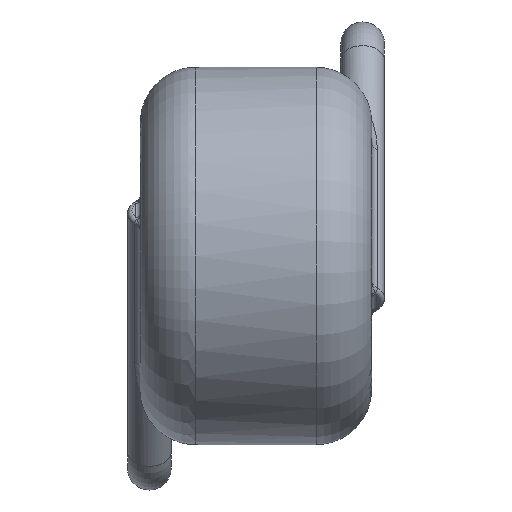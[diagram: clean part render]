
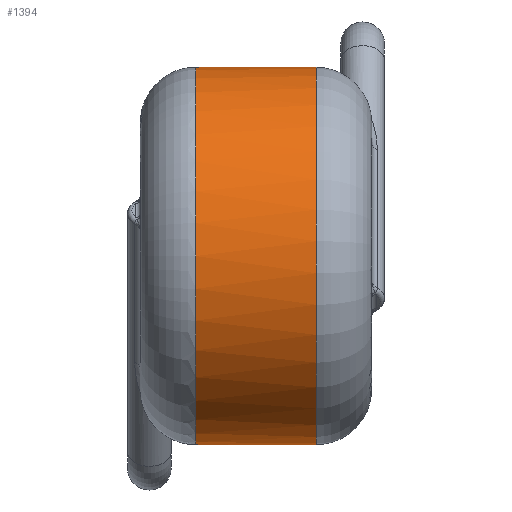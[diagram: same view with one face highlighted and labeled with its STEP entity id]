
A CAD part, left-side view. The second image highlights one B-rep face of the part: STEP entity #1394.
In plain terms, the highlighted cylindrical face has radius 8.5 mm (diameter 17 mm), a full revolution.
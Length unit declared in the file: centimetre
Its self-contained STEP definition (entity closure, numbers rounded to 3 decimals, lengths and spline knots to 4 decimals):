
#955=CARTESIAN_POINT('',(0.85,0.71,0.));
#956=VERTEX_POINT('',#955);
#957=CARTESIAN_POINT('',(0.0,0.71,0.0));
#958=DIRECTION('',(0.0,1.0,0.0));
#959=DIRECTION('',(-1.0,0.0,0.0));
#960=AXIS2_PLACEMENT_3D('',#957,#958,#959);
#961=CIRCLE('',#960,0.85);
#962=EDGE_CURVE('',#956,#956,#961,.T.);
#1285=CARTESIAN_POINT('',(0.85,0.169,0.));
#1286=VERTEX_POINT('',#1285);
#1287=CARTESIAN_POINT('',(0.0,0.169,0.0));
#1288=DIRECTION('',(0.0,-1.0,0.0));
#1289=DIRECTION('',(-1.0,0.0,0.0));
#1290=AXIS2_PLACEMENT_3D('',#1287,#1288,#1289);
#1291=CIRCLE('',#1290,0.85);
#1292=EDGE_CURVE('',#1286,#1286,#1291,.T.);
#1383=CARTESIAN_POINT('',(0.0,0.4395,0.0));
#1384=DIRECTION('',(0.0,1.0,0.0));
#1385=DIRECTION('',(-1.0,0.0,0.0));
#1386=AXIS2_PLACEMENT_3D('',#1383,#1384,#1385);
#1387=CYLINDRICAL_SURFACE('',#1386,0.85);
#1388=ORIENTED_EDGE('',*,*,#962,.F.);
#1389=EDGE_LOOP('',(#1388));
#1390=FACE_OUTER_BOUND('',#1389,.T.);
#1391=ORIENTED_EDGE('',*,*,#1292,.F.);
#1392=EDGE_LOOP('',(#1391));
#1393=FACE_BOUND('',#1392,.T.);
#1394=ADVANCED_FACE('',(#1390,#1393),#1387,.T.);
